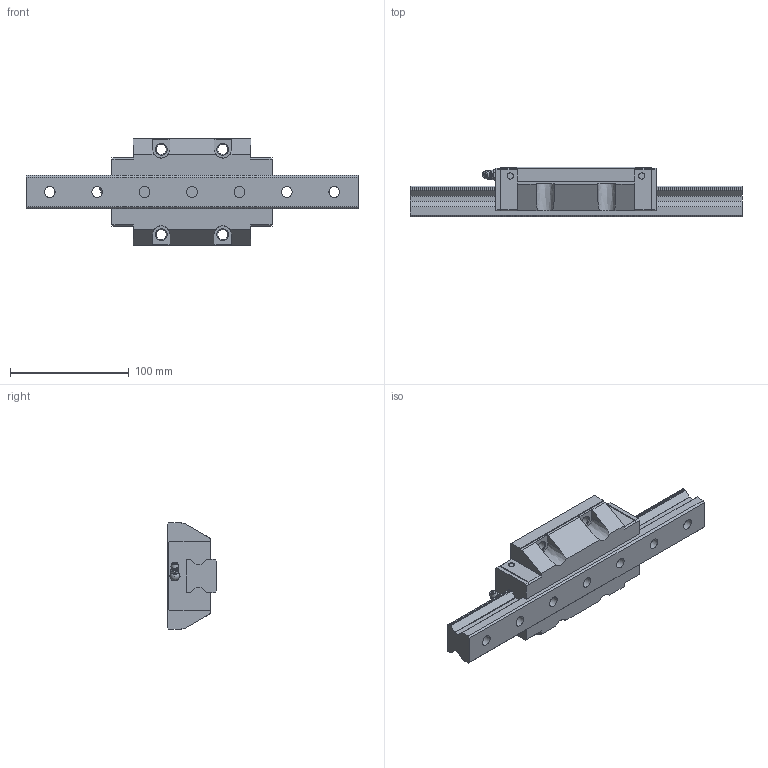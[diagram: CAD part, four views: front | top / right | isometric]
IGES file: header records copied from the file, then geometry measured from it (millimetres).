
Start section: Data from Parasolid IGES Translator 26.0.171, Copyright(c) 2006 Siemens PLM Software. All Rights Reserved.
Global section: file name: SRG30XLC1SS-280LP_G20_0_B-M6F_72-5_0_0_0_1.igs; native system: By Siemens PLM Incorporated; preprocessor: XPlus GENERIC/IGES 26.0.171; author: Noname; organization: Noname; date: 20240523.093650; units: millimetre
Bounding box: 280 x 42 x 90 mm (x, y, z)
Surface area: 84501.2 mm2 (no closed solid volume)
Topology: 0 solids, 0 shells, 236 faces, 1242 edges, 1184 vertices
Faces by surface type: extrusion 155, revolution 81
